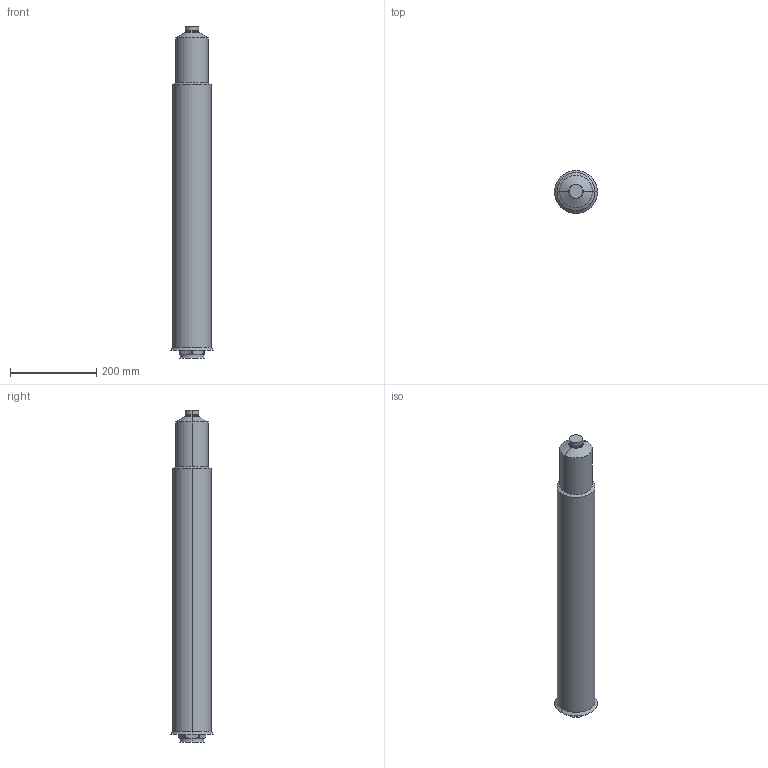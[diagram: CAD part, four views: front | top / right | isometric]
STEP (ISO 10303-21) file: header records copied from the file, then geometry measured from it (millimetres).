
FILE_DESCRIPTION (( 'STEP AP214' ), '1' );
FILE_NAME ('T24_CLOSED_750_HELICAL.STEP', '2009-05-11T13:28:07', ( 'Synventive Molding Solutions' ), ( 'Synventive Molding Solutions' ), 'SwSTEP 2.0', 'SolidWorks 2008', '' );
FILE_SCHEMA (( 'AUTOMOTIVE_DESIGN' ));
Length unit declared in the file: millimetre
Products named in the file (1): T24_CLOSED_750_HELICAL
Bounding box: 100 x 100 x 768 mm (x, y, z)
Volume: 6304786.5 mm3; surface area: 393172.2 mm2
Topology: 2 solids, 2 shells, 332 faces, 898 edges, 573 vertices
Faces by surface type: cylinder 123, plane 111, bspline 52, torus 32, cone 14
Entity records: 32851 total; most frequent: CARTESIAN_POINT 21539, ORIENTED_EDGE 1796, DIRECTION 1415, EDGE_CURVE 898, VERTEX_POINT 573, AXIS2_PLACEMENT_3D 526, LINE 363, VECTOR 363
